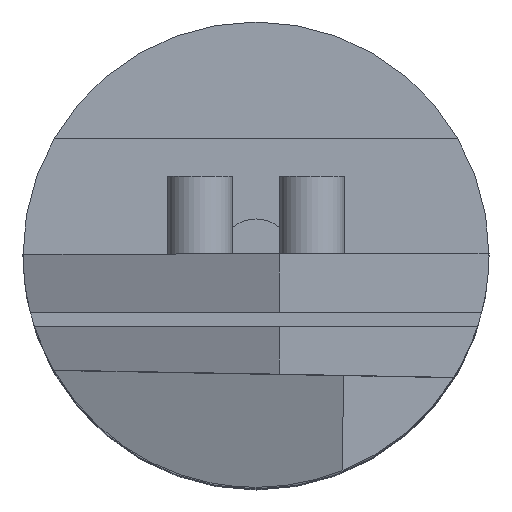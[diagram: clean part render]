
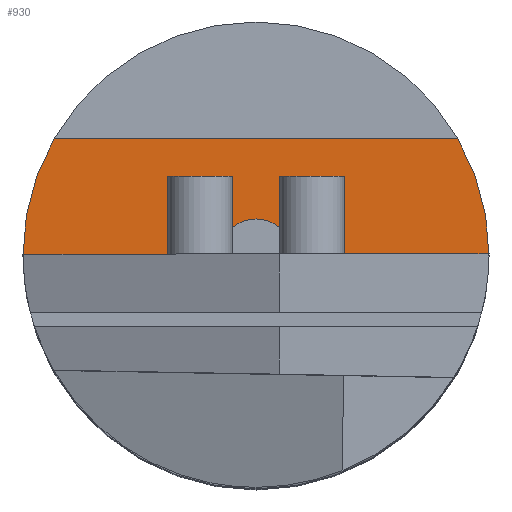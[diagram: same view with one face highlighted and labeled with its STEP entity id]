
A CAD part, top view. The second image highlights one B-rep face of the part: STEP entity #930.
In plain terms, the highlighted planar face has unit normal (0, 0, 1).
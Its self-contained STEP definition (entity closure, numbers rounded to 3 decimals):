
#221=CARTESIAN_POINT('',(0.,0.,-43.815));
#222=DIRECTION('',(0.,0.,1.));
#223=DIRECTION('',(1.,0.,0.));
#224=AXIS2_PLACEMENT_3D('',#221,#222,#223);
#226=DIRECTION('',(1.,0.,0.));
#227=VECTOR('',#226,10.719);
#228=CARTESIAN_POINT('',(-12.7,0.,-43.815));
#229=LINE('',#228,#227);
#230=DIRECTION('',(1.,0.,0.));
#231=VECTOR('',#230,10.719);
#232=CARTESIAN_POINT('',(1.981,0.,-43.815));
#233=LINE('',#232,#231);
#269=CARTESIAN_POINT('',(0.,0.,-43.815));
#270=DIRECTION('',(0.,0.,1.));
#271=DIRECTION('',(-0.866,0.5,0.));
#272=AXIS2_PLACEMENT_3D('',#269,#270,#271);
#365=CARTESIAN_POINT('',(0.,0.,-43.815));
#366=DIRECTION('',(0.,0.,1.));
#367=DIRECTION('',(1.,0.,0.));
#368=AXIS2_PLACEMENT_3D('',#365,#366,#367);
#400=DIRECTION('',(1.,0.,0.));
#401=VECTOR('',#400,21.997);
#402=CARTESIAN_POINT('',(-10.999,6.35,-43.815));
#403=LINE('',#402,#401);
#556=CARTESIAN_POINT('',(-10.999,6.35,-43.815));
#557=CARTESIAN_POINT('',(-12.7,0.,-43.815));
#558=VERTEX_POINT('',#556);
#559=VERTEX_POINT('',#557);
#562=CARTESIAN_POINT('',(12.7,0.,-43.815));
#563=CARTESIAN_POINT('',(10.999,6.35,-43.815));
#564=VERTEX_POINT('',#562);
#565=VERTEX_POINT('',#563);
#676=CARTESIAN_POINT('',(1.981,0.,-43.815));
#677=CARTESIAN_POINT('',(-1.981,0.,-43.815));
#678=VERTEX_POINT('',#676);
#679=VERTEX_POINT('',#677);
#913=CARTESIAN_POINT('',(-15.259,0.,-43.815));
#914=DIRECTION('',(0.,0.,-1.));
#915=DIRECTION('',(0.,1.,0.));
#916=AXIS2_PLACEMENT_3D('',#913,#914,#915);
#917=PLANE('',#916);
#919=ORIENTED_EDGE('',*,*,#918,.T.);
#920=ORIENTED_EDGE('',*,*,#729,.F.);
#922=ORIENTED_EDGE('',*,*,#921,.F.);
#924=ORIENTED_EDGE('',*,*,#923,.T.);
#926=ORIENTED_EDGE('',*,*,#925,.F.);
#927=ORIENTED_EDGE('',*,*,#737,.F.);
#928=EDGE_LOOP('',(#919,#920,#922,#924,#926,#927));
#929=FACE_OUTER_BOUND('',#928,.F.);
#930=ADVANCED_FACE('',(#929),#917,.F.);
#225=CIRCLE('',#224,1.981);
#273=CIRCLE('',#272,12.7);
#369=CIRCLE('',#368,12.7);
#729=EDGE_CURVE('',#559,#679,#229,.T.);
#737=EDGE_CURVE('',#678,#564,#233,.T.);
#918=EDGE_CURVE('',#678,#679,#225,.T.);
#921=EDGE_CURVE('',#558,#559,#273,.T.);
#923=EDGE_CURVE('',#558,#565,#403,.T.);
#925=EDGE_CURVE('',#564,#565,#369,.T.);
